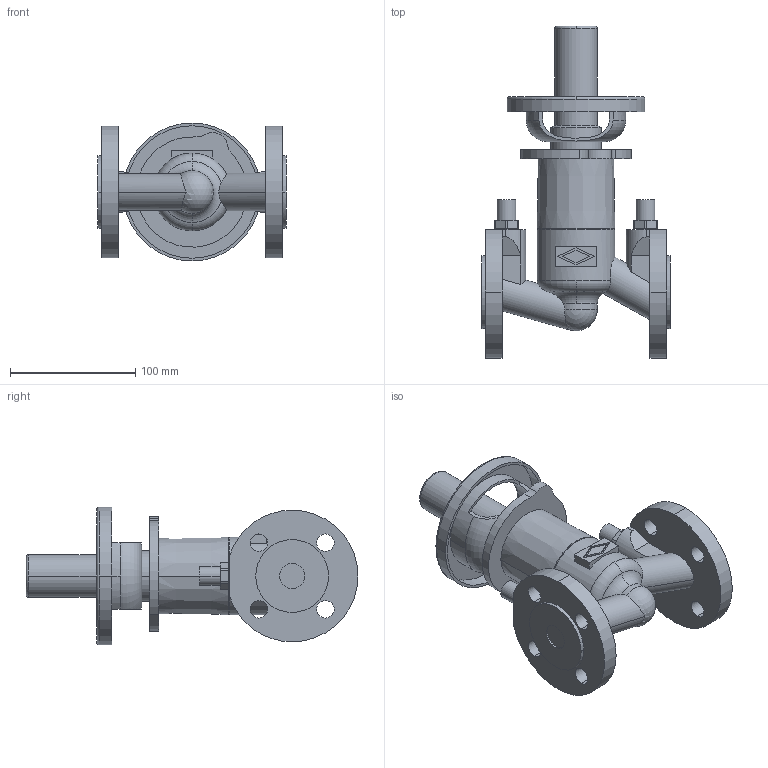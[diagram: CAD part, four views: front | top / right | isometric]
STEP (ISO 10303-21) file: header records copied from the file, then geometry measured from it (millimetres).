
FILE_DESCRIPTION( ( '' ), '1' );
FILE_NAME( 'F:/DE-SHS/TB/OR/04-Sonstiges/daten/files_3d/12020/c000000210.stp', '2015-04-28T06:36:10', ( '' ), ( '' ), ' ', ' ', ' ' );
FILE_SCHEMA( ( 'CONFIG_CONTROL_DESIGN' ) );
Length unit declared in the file: millimetre
Products named in the file (1): 1
Bounding box: 150 x 264.7 x 110 mm (x, y, z)
Volume: 829800.5 mm3; surface area: 134910.5 mm2
Topology: 1 solids, 1 shells, 172 faces, 458 edges, 304 vertices
Faces by surface type: cylinder 82, plane 69, torus 16, cone 4, sphere 1
Entity records: 6395 total; most frequent: CARTESIAN_POINT 1855, DIRECTION 997, ORIENTED_EDGE 912, EDGE_CURVE 456, AXIS2_PLACEMENT_3D 394, VERTEX_POINT 304, CIRCLE 213, EDGE_LOOP 210
